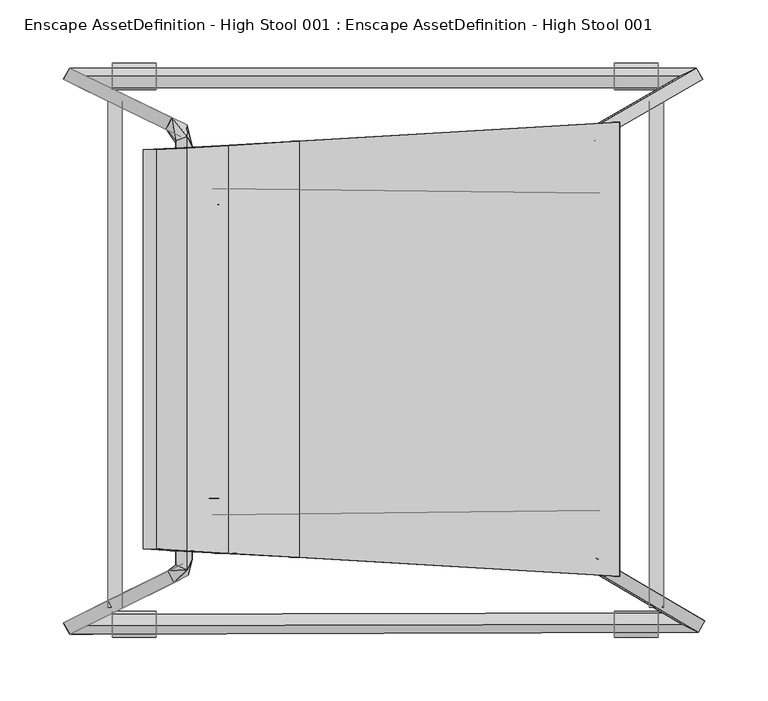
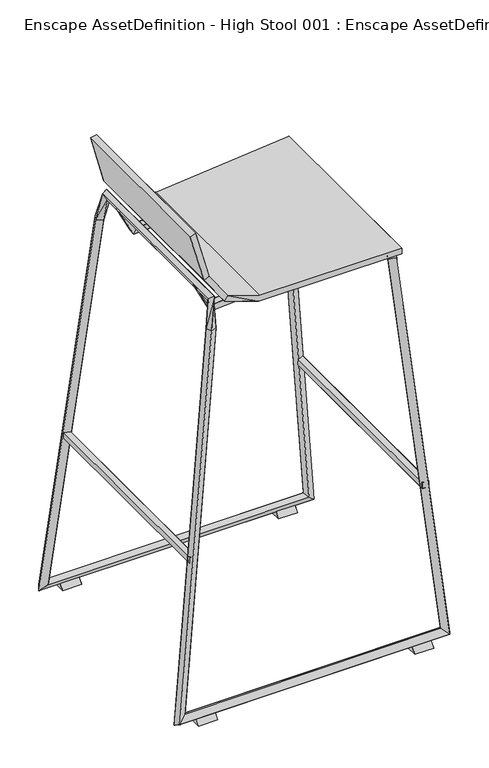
"""IFC4 building model written with IfcOpenShell, lengths in millimetres: geographic element geometry, Enscape AssetDefinition - High Stool 001 : Enscape AssetDefinition - High Stool 001."""

from ifc_helpers import new_model, si_unit, origin, place, context, project, spatial, triangles, source, transform, mapped, element, save


def enscape_assetdefinition_high_stool_001_enscape_cfc41f77(model_context):
    return source(origin(), model_context, "Body", "Tessellation", [
        triangles([(167.7704826, -165.898413, 748.1110949), (176.4872289, 177.9634832, 745.3354649), (178.1004298, -176.5341918, 748.7158545), (177.1778844, 177.8975352, 732.1599609), (178.7451216, -176.5551935, 735.5383158), (166.9419176, 167.9014339, 731.716238), (166.2512621, 167.9683993, 744.8917419), (168.4141933, -165.9194146, 734.9337015), (-167.2017673, 184.0474869, 723.6242174), (-252.9136504, 214.2966398, 8.1170089), (-247.8611245, 223.2882058, 13.1425379), (-234.5906409, 216.864361, 24.6988558), (247.496303, 223.2812113, 14.3549412), (162.4551094, 175.1618737, 737.9851141), (234.3507754, 216.8793673, 25.8582849), (174.2852921, 180.7991023, 739.509367), (166.8939373, 165.8734509, 737.8891897), (252.4288871, 214.2786358, 9.3713927), (239.2833414, 207.877791, 20.8757334), (178.7241199, 171.5116423, 739.4133699), (-239.6431668, 207.872795, 19.6733245), (-150.9267796, 161.2707158, 770.8310017), (-154.7539079, 169.021896, 780.0634323), (-155.4185658, 178.3432929, 721.9850006), (-159.9043566, 169.0768527, 721.9850006), (-171.6875763, 174.7810467, 723.6242174), (-154.7539079, -173.5926381, 780.0634323), (-170.3062471, -174.5841474, 723.6471811), (-163.9873559, -169.7585335, 776.2362677), (-165.7295098, -183.8066041, 723.6471811), (-252.7757046, -215.5140255, 8.1020156), (-154.0082776, -177.9884817, 721.9629089), (-150.9267796, -164.9398959, 770.8310017), (254.0800581, -214.0877317, 8.8086687), (240.9535156, -207.5989018, 20.2570393), (-239.5372139, -208.9442412, 19.5823712), (163.7634597, -174.0514219, 741.1015663), (235.9199747, -216.5605096, 25.3415378), (180.0564514, -170.5341402, 742.5848333), (168.2772649, -164.7989707, 741.0326752), (-234.3717589, -217.873856, 24.6878599), (249.0465536, -223.0493214, 13.8931688), (175.5426826, -179.7865914, 742.6538698), (-158.5850149, -168.7670242, 721.9629089), (-247.6102495, -224.4436403, 13.2065056), (-160.1602458, -161.1057731, 767.0028196), (-160.1602458, 157.8363869, 767.0028196), (-163.9873559, 165.5875671, 776.2362677), (221.6160331, -203.2630473, 297.4497401), (210.3965326, 196.9661569, 297.4497401), (210.3965326, -203.2630473, 308.5172876), (210.3965326, -203.2630473, 297.4497401), (210.3965326, 196.9661569, 308.5172876), (221.6160331, 196.9661569, 308.5172876), (221.6160331, 196.9661569, 297.4497401), (221.6160331, -203.2630473, 308.5172876), (-217.5860102, 196.9661569, 302.1684201), (-217.5860102, 196.9661569, 313.236985), (-217.5860102, -203.2630473, 302.1684201), (-206.3665097, 196.9661569, 313.236985), (-217.5860102, -203.2630473, 313.236985), (-206.3665097, -203.2630473, 313.236985), (-206.3665097, 196.9661569, 302.1684201), (-206.3665097, -203.2630473, 302.1684201), (-122.2388959, 161.8784004, 762.2462059), (-165.0418519, 159.9023764, 805.9707172), (-155.2436673, 159.9023764, 810.5004553), (-67.5267967, 165.2277417, 734.6487625), (-128.5258123, 161.8784004, 753.4715235), (-128.5258123, -160.5060822, 753.4715235), (-165.0418519, -158.5310393, 805.9707172), (-189.8496582, -157.0997495, 898.2812891), (-179.4197715, -157.0997495, 901.0649128), (-189.8496582, 158.4720676, 898.2812891), (-155.2436673, -158.5310393, 810.5004553), (-179.4197715, 158.4720676, 901.0649128), (-66.2664176, 165.2277417, 745.3694744), (186.990058, 180.1823885, 746.2640419), (186.4922868, 180.1823885, 757.047686), (186.4922868, -178.8110696, 757.047686), (-122.2388959, -160.5060822, 762.2462059), (-67.5267967, -163.8554418, 734.6487625), (-66.2664176, -163.8554418, 745.3694744), (186.990058, -178.8110696, 746.2640419), (217.3511227, -206.4215027, 0.0), (217.3511227, -216.7194388, 12.2919562), (182.4692584, -227.0173749, 0.0), (182.4692584, -206.4215027, 0.0), (182.4692584, -216.7194388, 12.2919562), (217.3511227, -227.0173749, 0.0), (-179.231847, -206.4215027, 0.0), (-179.231847, -216.7194388, 12.2919562), (-214.1127302, -216.7194388, 12.2919562), (-214.1127302, -206.4215027, 0.0), (-214.1127302, -227.0173749, 0.0), (-179.231847, -227.0173749, 0.0), (-214.1127302, 226.9444143, 0.0), (-214.1127302, 216.6464782, 12.2919562), (-214.1127302, 206.3485421, 0.0), (-179.231847, 226.9444143, 0.0), (-179.231847, 216.6464782, 12.2919562), (-179.231847, 206.3485421, 0.0), (217.3511227, 226.9444143, 0.0), (182.4692584, 226.9444143, 0.0), (182.4692584, 206.3485421, 0.0), (182.4692584, 216.6464782, 12.2919562), (217.3511227, 216.6464782, 12.2919562), (217.3511227, 206.3485421, 0.0), (-154.3481006, 126.2249353, 778.2243731), (-154.2861312, 115.0464297, 778.1623856), (-130.0890254, 115.2583172, 730.766732), (171.2587871, 108.9514257, 748.1110949), (171.2587871, 111.561141, 734.9337015), (-161.593534, 126.2309215, 770.8039684), (-161.5315829, 115.0524341, 770.7419809), (-135.6832787, 115.2683184, 718.8185514), (171.2587871, 124.2728924, 748.7158545), (-134.8896589, 127.8551228, 718.4566549), (171.2587871, 124.2808951, 735.5383158), (-129.2954237, 127.8451398, 730.4048355), (-154.3481006, -128.3588893, 778.2243731), (171.2587871, -111.0853797, 748.1110949), (-130.0890254, -117.3922713, 730.766732), (171.2587871, -113.6950951, 734.9337015), (-161.593534, -128.3648755, 770.8039684), (-134.8896589, -129.9890769, 718.4566549), (-161.5315829, -117.1863791, 770.7419809), (-154.2861312, -117.1803747, 778.1623856), (-135.6832787, -117.4022725, 718.8185514), (171.2587871, -126.414831, 735.5383158), (-129.2954237, -129.9790848, 730.4048355), (171.2587871, -126.4058472, 748.7158545)], [[132, 122, 131], [131, 126, 132], [130, 132, 126], [130, 126, 124], [129, 124, 126], [127, 128, 129], [127, 129, 125], [126, 125, 129], [126, 131, 125], [121, 125, 131], [129, 123, 124], [122, 124, 123], [123, 131, 122], [123, 129, 128], [128, 121, 123], [131, 123, 121], [117, 120, 112], [109, 120, 114], [119, 118, 117], [120, 117, 118], [118, 114, 120], [119, 113, 118], [116, 118, 113], [118, 116, 114], [115, 114, 116], [115, 116, 110], [112, 111, 113], [116, 113, 111], [111, 112, 120], [111, 110, 116], [120, 109, 111], [110, 111, 109], [105, 108, 106], [107, 106, 108], [108, 103, 107], [104, 105, 106], [106, 107, 104], [103, 104, 107], [99, 102, 98], [101, 98, 102], [102, 100, 101], [97, 99, 98], [98, 101, 97], [100, 97, 101], [95, 96, 93], [92, 93, 96], [96, 91, 92], [94, 95, 93], [93, 92, 94], [91, 94, 92], [87, 90, 89], [86, 89, 90], [90, 85, 86], [88, 87, 89], [89, 86, 88], [85, 88, 86], [80, 83, 84], [82, 84, 83], [83, 81, 82], [83, 77, 81], [80, 79, 83], [77, 83, 79], [79, 80, 78], [84, 78, 80], [77, 79, 68], [78, 68, 79], [70, 82, 81], [82, 70, 68], [81, 75, 70], [73, 76, 72], [73, 75, 76], [74, 72, 76], [75, 73, 71], [72, 71, 73], [71, 70, 75], [72, 74, 71], [68, 69, 77], [69, 68, 70], [70, 71, 69], [66, 71, 74], [66, 69, 71], [76, 67, 74], [66, 74, 67], [67, 76, 75], [65, 77, 69], [67, 65, 66], [69, 66, 65], [65, 81, 77], [67, 75, 65], [81, 65, 75], [64, 63, 62], [60, 62, 63], [61, 62, 58], [60, 58, 62], [61, 58, 59], [57, 59, 58], [63, 64, 57], [59, 57, 64], [49, 55, 56], [54, 56, 55], [51, 56, 53], [54, 53, 56], [51, 53, 52], [50, 52, 53], [55, 49, 50], [52, 50, 49], [25, 47, 26], [48, 26, 47], [47, 46, 48], [46, 47, 33], [33, 32, 46], [44, 46, 32], [41, 32, 45], [32, 41, 44], [43, 42, 39], [45, 42, 41], [42, 43, 38], [38, 41, 42], [37, 38, 43], [37, 43, 40], [39, 40, 43], [39, 34, 40], [34, 39, 42], [42, 45, 34], [40, 35, 37], [38, 37, 35], [35, 40, 34], [35, 36, 38], [41, 38, 36], [36, 44, 41], [34, 31, 35], [36, 35, 31], [31, 34, 45], [32, 33, 30], [30, 45, 32], [45, 30, 31], [31, 28, 36], [44, 36, 28], [28, 31, 30], [29, 48, 46], [46, 44, 29], [28, 29, 44], [27, 30, 33], [29, 28, 27], [30, 27, 28], [47, 25, 22], [22, 33, 47], [33, 22, 27], [23, 27, 22], [48, 29, 23], [27, 23, 29], [26, 48, 9], [23, 9, 48], [24, 22, 25], [9, 23, 24], [22, 24, 23], [24, 12, 9], [12, 24, 21], [25, 21, 24], [17, 19, 20], [21, 19, 12], [18, 20, 19], [19, 21, 18], [20, 18, 16], [17, 20, 14], [16, 14, 20], [14, 15, 17], [19, 17, 15], [15, 12, 19], [16, 13, 14], [15, 14, 13], [13, 16, 18], [10, 18, 21], [18, 10, 13], [21, 25, 10], [26, 10, 25], [13, 11, 15], [12, 15, 11], [11, 13, 10], [11, 9, 12], [10, 26, 11], [9, 11, 26], [1, 7, 8], [6, 8, 7], [8, 6, 5], [4, 5, 6], [5, 4, 3], [2, 3, 4], [7, 1, 2], [3, 2, 1]], closed=False),
    ])


if __name__ == "__main__":
    model = new_model("IFC4")
    model_context = context("Model", 3, world=origin())
    ifc_project = project(units=[si_unit("LENGTHUNIT", "METRE", prefix="MILLI")], contexts=[model_context])
    site = spatial("IfcSite", under=ifc_project)
    building = spatial("IfcBuilding", under=site)
    placement = place(None, origin())
    enscape_assetdefinition_high_stool_001_enscape_shape = enscape_assetdefinition_high_stool_001_enscape_cfc41f77(model_context)
    element("IfcGeographicElement", 1, ObjectType="Enscape AssetDefinition - High Stool 001 : Enscape AssetDefinition - High Stool 001", at=placement, inside=building, context=model_context, shape_type="MappedRepresentation", body=[
        mapped(enscape_assetdefinition_high_stool_001_enscape_shape, transform((0.0, 0.0, 0.0), x_axis=(1.0, 0.0, 0.0), y_axis=(0.0, 1.0, 0.0), z_axis=(0.0, 0.0, 1.0))),
    ])
    save(model, "model.ifc")
